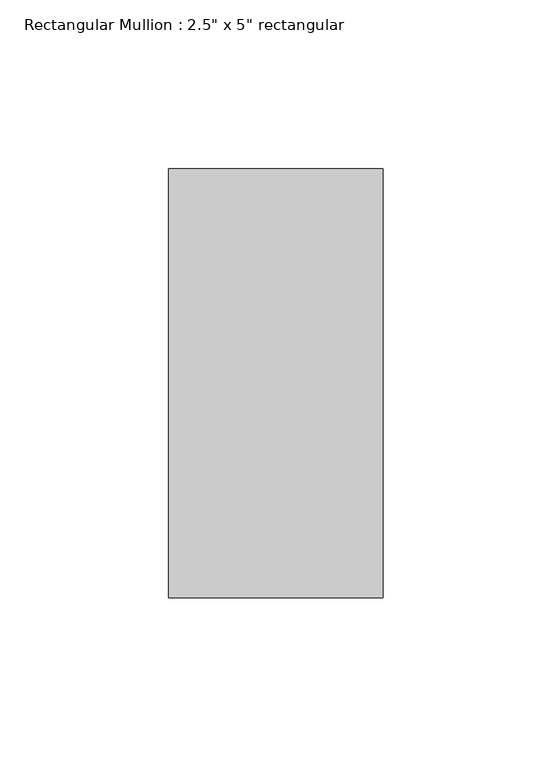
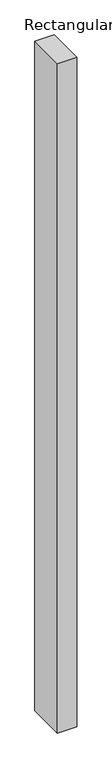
"""IFC4 building model written with IfcOpenShell, lengths in millimetres: member geometry."""

from ifc_helpers import new_model, si_unit, frame, origin, place, context, project, spatial, polyline, outline, extrude, source, transform, mapped, element, save


def member_5adcf121(model_context):
    return source(origin(), model_context, "Body", "SweptSolid", [
        extrude(outline(polyline([(31.75, 63.5), (31.75, -63.5), (-31.75, -63.5), (-31.75, 63.5), (31.75, 63.5)])), frame((0.0, 0.0, -2311.4), z_axis=(0.0, 0.0, 1.0), x_axis=(1.0, 0.0, 0.0)), (0.0, 0.0, 1.0), 2311.4),
    ])


if __name__ == "__main__":
    model = new_model("IFC4")
    model_context = context("Model", 3, world=origin())
    ifc_project = project(units=[si_unit("LENGTHUNIT", "METRE", prefix="MILLI")], contexts=[model_context])
    site = spatial("IfcSite", under=ifc_project)
    building = spatial("IfcBuilding", under=site)
    placement = place(None, origin())
    member_shape = member_5adcf121(model_context)
    element("IfcMember", 1, ObjectType="Rectangular Mullion : 2.5\" x 5\" rectangular", at=placement, inside=building, context=model_context, shape_type="MappedRepresentation", body=[
        mapped(member_shape, transform((0.0, 0.0, 0.0), x_axis=(1.0, 0.0, 0.0), y_axis=(0.0, 1.0, 0.0), z_axis=(0.0, 0.0, 1.0))),
    ])
    save(model, "model.ifc")
